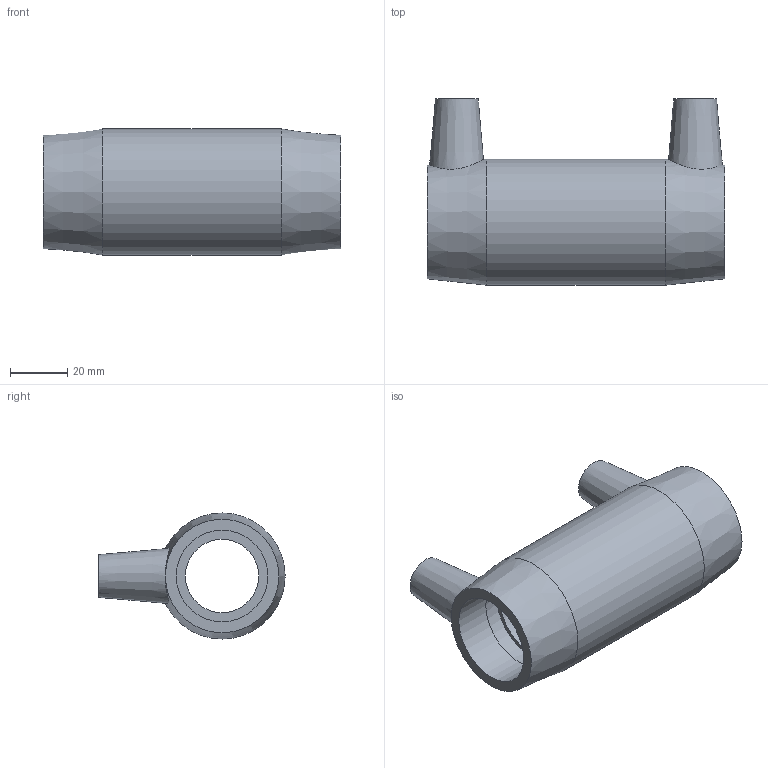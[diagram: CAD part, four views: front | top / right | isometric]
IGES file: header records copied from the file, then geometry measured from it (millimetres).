
Global section: file name: 4901L4032.ipt; native system: Autodesk Inventor 2015; preprocessor: unknown; author: KIM; date: 20171106.093600; units: millimetre
Bounding box: 104 x 65 x 44 mm (x, y, z)
Volume: 76954 mm3; surface area: 29733.3 mm2
Topology: 1 solids, 1 shells, 28 faces, 64 edges, 46 vertices
Faces by surface type: plane 12, revolution 9, cone 4, cylinder 3
Full cylindrical faces by diameter (mm): 4 x2, 44 x1
